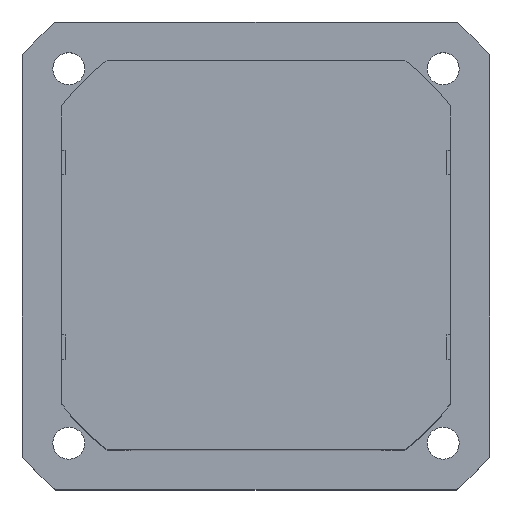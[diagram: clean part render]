
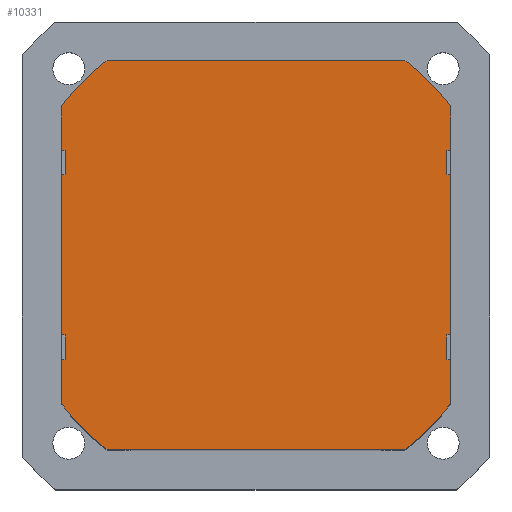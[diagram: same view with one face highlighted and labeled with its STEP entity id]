
A CAD part, top view. The second image highlights one B-rep face of the part: STEP entity #10331.
In plain terms, the highlighted planar face has unit normal (0, 0, 1).
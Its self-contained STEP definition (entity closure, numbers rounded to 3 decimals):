
#2822=CIRCLE('',#11333,99.5);
#2823=CIRCLE('',#11334,99.5);
#2824=CIRCLE('',#11335,99.5);
#2825=CIRCLE('',#11336,99.5);
#3320=VERTEX_POINT('',#14723);
#3321=VERTEX_POINT('',#14724);
#3322=VERTEX_POINT('',#14726);
#3323=VERTEX_POINT('',#14728);
#3324=VERTEX_POINT('',#14730);
#3325=VERTEX_POINT('',#14732);
#3326=VERTEX_POINT('',#14734);
#3327=VERTEX_POINT('',#14736);
#3328=VERTEX_POINT('',#14738);
#3329=VERTEX_POINT('',#14740);
#3330=VERTEX_POINT('',#14742);
#3331=VERTEX_POINT('',#14744);
#3332=VERTEX_POINT('',#14746);
#3333=VERTEX_POINT('',#14748);
#3334=VERTEX_POINT('',#14750);
#3335=VERTEX_POINT('',#14752);
#3336=VERTEX_POINT('',#14754);
#3337=VERTEX_POINT('',#14756);
#3338=VERTEX_POINT('',#14758);
#3339=VERTEX_POINT('',#14760);
#3340=VERTEX_POINT('',#14762);
#3341=VERTEX_POINT('',#14764);
#3342=VERTEX_POINT('',#14766);
#3343=VERTEX_POINT('',#14768);
#4296=LINE('',#14722,#12415);
#4297=LINE('',#14727,#12416);
#4298=LINE('',#14729,#12417);
#4299=LINE('',#14731,#12418);
#4300=LINE('',#14733,#12419);
#4301=LINE('',#14735,#12420);
#4302=LINE('',#14737,#12421);
#4303=LINE('',#14739,#12422);
#4304=LINE('',#14741,#12423);
#4305=LINE('',#14743,#12424);
#4306=LINE('',#14747,#12425);
#4307=LINE('',#14751,#12426);
#4308=LINE('',#14753,#12427);
#4309=LINE('',#14755,#12428);
#4310=LINE('',#14757,#12429);
#4311=LINE('',#14759,#12430);
#4312=LINE('',#14761,#12431);
#4313=LINE('',#14763,#12432);
#4314=LINE('',#14765,#12433);
#4315=LINE('',#14767,#12434);
#5185=EDGE_CURVE('',#3320,#3321,#4296,.T.);
#5186=EDGE_CURVE('',#3322,#3320,#2822,.T.);
#5187=EDGE_CURVE('',#3323,#3322,#4297,.T.);
#5188=EDGE_CURVE('',#3324,#3323,#4298,.T.);
#5189=EDGE_CURVE('',#3325,#3324,#4299,.T.);
#5190=EDGE_CURVE('',#3326,#3325,#4300,.T.);
#5191=EDGE_CURVE('',#3327,#3326,#4301,.T.);
#5192=EDGE_CURVE('',#3328,#3327,#4302,.T.);
#5193=EDGE_CURVE('',#3329,#3328,#4303,.T.);
#5194=EDGE_CURVE('',#3330,#3329,#4304,.T.);
#5195=EDGE_CURVE('',#3331,#3330,#4305,.T.);
#5196=EDGE_CURVE('',#3332,#3331,#2823,.T.);
#5197=EDGE_CURVE('',#3333,#3332,#4306,.T.);
#5198=EDGE_CURVE('',#3334,#3333,#2824,.T.);
#5199=EDGE_CURVE('',#3335,#3334,#4307,.T.);
#5200=EDGE_CURVE('',#3336,#3335,#4308,.T.);
#5201=EDGE_CURVE('',#3337,#3336,#4309,.T.);
#5202=EDGE_CURVE('',#3338,#3337,#4310,.T.);
#5203=EDGE_CURVE('',#3339,#3338,#4311,.T.);
#5204=EDGE_CURVE('',#3340,#3339,#4312,.T.);
#5205=EDGE_CURVE('',#3341,#3340,#4313,.T.);
#5206=EDGE_CURVE('',#3342,#3341,#4314,.T.);
#5207=EDGE_CURVE('',#3343,#3342,#4315,.T.);
#5208=EDGE_CURVE('',#3321,#3343,#2825,.T.);
#6723=ORIENTED_EDGE('',*,*,#5185,.F.);
#6724=ORIENTED_EDGE('',*,*,#5186,.F.);
#6725=ORIENTED_EDGE('',*,*,#5187,.F.);
#6726=ORIENTED_EDGE('',*,*,#5188,.F.);
#6727=ORIENTED_EDGE('',*,*,#5189,.F.);
#6728=ORIENTED_EDGE('',*,*,#5190,.F.);
#6729=ORIENTED_EDGE('',*,*,#5191,.F.);
#6730=ORIENTED_EDGE('',*,*,#5192,.F.);
#6731=ORIENTED_EDGE('',*,*,#5193,.F.);
#6732=ORIENTED_EDGE('',*,*,#5194,.F.);
#6733=ORIENTED_EDGE('',*,*,#5195,.F.);
#6734=ORIENTED_EDGE('',*,*,#5196,.F.);
#6735=ORIENTED_EDGE('',*,*,#5197,.F.);
#6736=ORIENTED_EDGE('',*,*,#5198,.F.);
#6737=ORIENTED_EDGE('',*,*,#5199,.F.);
#6738=ORIENTED_EDGE('',*,*,#5200,.F.);
#6739=ORIENTED_EDGE('',*,*,#5201,.F.);
#6740=ORIENTED_EDGE('',*,*,#5202,.F.);
#6741=ORIENTED_EDGE('',*,*,#5203,.F.);
#6742=ORIENTED_EDGE('',*,*,#5204,.F.);
#6743=ORIENTED_EDGE('',*,*,#5205,.F.);
#6744=ORIENTED_EDGE('',*,*,#5206,.F.);
#6745=ORIENTED_EDGE('',*,*,#5207,.F.);
#6746=ORIENTED_EDGE('',*,*,#5208,.F.);
#8978=EDGE_LOOP('',(#6723,#6724,#6725,#6726,#6727,#6728,#6729,#6730,#6731,
#6732,#6733,#6734,#6735,#6736,#6737,#6738,#6739,#6740,#6741,#6742,#6743,
#6744,#6745,#6746));
#9670=FACE_BOUND('',#8978,.T.);
#10331=ADVANCED_FACE('',(#9670),#13151,.T.);
#11332=AXIS2_PLACEMENT_3D('',#14721,#18924,$);
#11333=AXIS2_PLACEMENT_3D('',#14725,#18926,#18927);
#11334=AXIS2_PLACEMENT_3D('',#14745,#18937,#18938);
#11335=AXIS2_PLACEMENT_3D('',#14749,#18940,#18941);
#11336=AXIS2_PLACEMENT_3D('',#14769,#18951,#18952);
#12415=VECTOR('',#18925,1.);
#12416=VECTOR('',#18928,1.);
#12417=VECTOR('',#18929,1.);
#12418=VECTOR('',#18930,1.);
#12419=VECTOR('',#18931,1.);
#12420=VECTOR('',#18932,1.);
#12421=VECTOR('',#18933,1.);
#12422=VECTOR('',#18934,1.);
#12423=VECTOR('',#18935,1.);
#12424=VECTOR('',#18936,1.);
#12425=VECTOR('',#18939,1.);
#12426=VECTOR('',#18942,1.);
#12427=VECTOR('',#18943,1.);
#12428=VECTOR('',#18944,1.);
#12429=VECTOR('',#18945,1.);
#12430=VECTOR('',#18946,1.);
#12431=VECTOR('',#18947,1.);
#12432=VECTOR('',#18948,1.);
#12433=VECTOR('',#18949,1.);
#12434=VECTOR('',#18950,1.);
#13151=PLANE('',#11332);
#14721=CARTESIAN_POINT('',(0.,0.,104.));
#14722=CARTESIAN_POINT('',(-60.492,-79.,104.));
#14723=CARTESIAN_POINT('',(60.492,-79.,104.));
#14724=CARTESIAN_POINT('',(-60.492,-79.,104.));
#14725=CARTESIAN_POINT('',(0.,0.,104.));
#14726=CARTESIAN_POINT('',(79.,-60.492,104.));
#14727=CARTESIAN_POINT('',(79.,-60.492,104.));
#14728=CARTESIAN_POINT('',(79.,-42.5,104.));
#14729=CARTESIAN_POINT('',(79.,-42.5,104.));
#14730=CARTESIAN_POINT('',(77.5,-42.5,104.));
#14731=CARTESIAN_POINT('',(77.5,-42.5,104.));
#14732=CARTESIAN_POINT('',(77.5,-32.5,104.));
#14733=CARTESIAN_POINT('',(77.5,-32.5,104.));
#14734=CARTESIAN_POINT('',(79.,-32.5,104.));
#14735=CARTESIAN_POINT('',(79.,-32.5,104.));
#14736=CARTESIAN_POINT('',(79.,32.5,104.));
#14737=CARTESIAN_POINT('',(79.,32.5,104.));
#14738=CARTESIAN_POINT('',(77.5,32.5,104.));
#14739=CARTESIAN_POINT('',(77.5,32.5,104.));
#14740=CARTESIAN_POINT('',(77.5,42.5,104.));
#14741=CARTESIAN_POINT('',(77.5,42.5,104.));
#14742=CARTESIAN_POINT('',(79.,42.5,104.));
#14743=CARTESIAN_POINT('',(79.,42.5,104.));
#14744=CARTESIAN_POINT('',(79.,60.492,104.));
#14745=CARTESIAN_POINT('',(0.,0.,104.));
#14746=CARTESIAN_POINT('',(60.492,79.,104.));
#14747=CARTESIAN_POINT('',(60.492,79.,104.));
#14748=CARTESIAN_POINT('',(-60.492,79.,104.));
#14749=CARTESIAN_POINT('',(0.,0.,104.));
#14750=CARTESIAN_POINT('',(-79.,60.492,104.));
#14751=CARTESIAN_POINT('',(-79.,60.492,104.));
#14752=CARTESIAN_POINT('',(-79.,42.5,104.));
#14753=CARTESIAN_POINT('',(-79.,42.5,104.));
#14754=CARTESIAN_POINT('',(-77.5,42.5,104.));
#14755=CARTESIAN_POINT('',(-77.5,42.5,104.));
#14756=CARTESIAN_POINT('',(-77.5,32.5,104.));
#14757=CARTESIAN_POINT('',(-77.5,32.5,104.));
#14758=CARTESIAN_POINT('',(-79.,32.5,104.));
#14759=CARTESIAN_POINT('',(-79.,32.5,104.));
#14760=CARTESIAN_POINT('',(-79.,-32.5,104.));
#14761=CARTESIAN_POINT('',(-79.,-32.5,104.));
#14762=CARTESIAN_POINT('',(-77.5,-32.5,104.));
#14763=CARTESIAN_POINT('',(-77.5,-32.5,104.));
#14764=CARTESIAN_POINT('',(-77.5,-42.5,104.));
#14765=CARTESIAN_POINT('',(-77.5,-42.5,104.));
#14766=CARTESIAN_POINT('',(-79.,-42.5,104.));
#14767=CARTESIAN_POINT('',(-79.,-42.5,104.));
#14768=CARTESIAN_POINT('',(-79.,-60.492,104.));
#14769=CARTESIAN_POINT('',(0.,0.,104.));
#18924=DIRECTION('',(0.,0.,1.));
#18925=DIRECTION('',(-1.,0.,0.));
#18926=DIRECTION('',(0.,0.,-1.));
#18927=DIRECTION('',(99.5,0.,0.));
#18928=DIRECTION('',(0.,-1.,0.));
#18929=DIRECTION('',(1.,0.,0.));
#18930=DIRECTION('',(0.,-1.,0.));
#18931=DIRECTION('',(-1.,0.,0.));
#18932=DIRECTION('',(0.,-1.,0.));
#18933=DIRECTION('',(1.,0.,0.));
#18934=DIRECTION('',(0.,-1.,0.));
#18935=DIRECTION('',(-1.,0.,0.));
#18936=DIRECTION('',(0.,-1.,0.));
#18937=DIRECTION('',(0.,0.,-1.));
#18938=DIRECTION('',(99.5,0.,0.));
#18939=DIRECTION('',(1.,0.,0.));
#18940=DIRECTION('',(0.,0.,-1.));
#18941=DIRECTION('',(99.5,0.,0.));
#18942=DIRECTION('',(0.,1.,0.));
#18943=DIRECTION('',(-1.,0.,0.));
#18944=DIRECTION('',(0.,1.,0.));
#18945=DIRECTION('',(1.,0.,0.));
#18946=DIRECTION('',(0.,1.,0.));
#18947=DIRECTION('',(-1.,0.,0.));
#18948=DIRECTION('',(0.,1.,0.));
#18949=DIRECTION('',(1.,0.,0.));
#18950=DIRECTION('',(0.,1.,0.));
#18951=DIRECTION('',(0.,0.,-1.));
#18952=DIRECTION('',(99.5,0.,0.));
